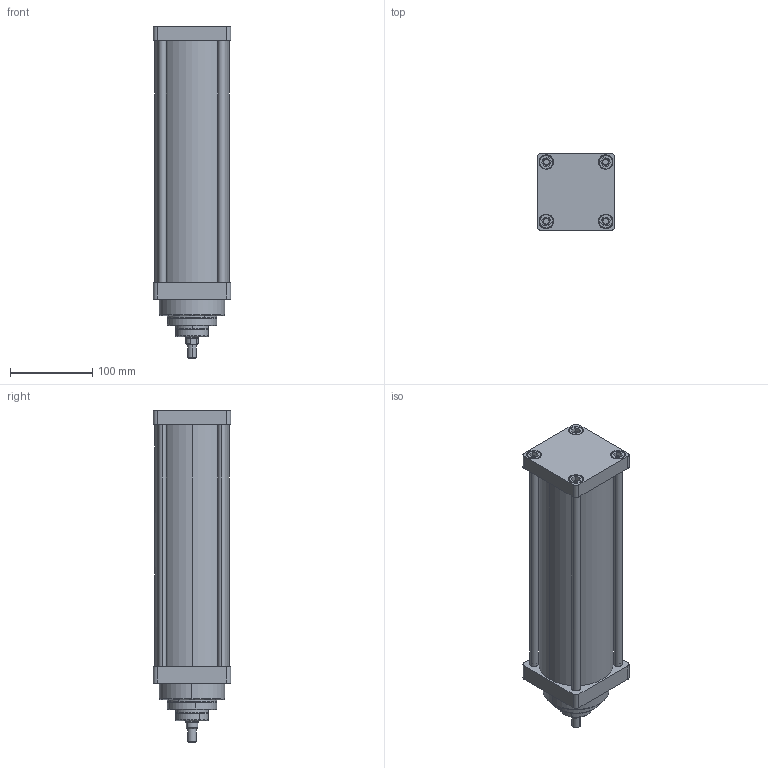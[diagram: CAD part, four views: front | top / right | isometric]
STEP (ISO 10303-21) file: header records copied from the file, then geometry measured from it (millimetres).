
FILE_DESCRIPTION (( 'STEP AP214' ), '1' );
FILE_NAME ('TLSK_3K_80_700.STEP', '2023-01-07T17:18:55', ( '' ), ( '' ), 'SwSTEP 2.0', 'SolidWorks 2021', '' );
FILE_SCHEMA (( 'AUTOMOTIVE_DESIGN' ));
Length unit declared in the file: millimetre
Products named in the file (19): 80_90_alm_boru_WEB; 63_ARKA_KAPAK_OZEL; 16_18_PAP_16_18_10_PAP; K103-060; pap_60_65_12; K52-16X20_5X3_6-4_8; KO-54X3; K103-040; 63_400_26boru_kapak_otto; 16_K_M尳_WEB; 40_35_boru_WEB; 56_60_alm.boru_WEB; CIVATA_WEB; 63_ON_KAPAK_OZEL; TLSK_3K_80_700; Kastas Seals-KO-32X2_5; 63_1600_50boru_kapak_teleskopik; M8_SAPLAMA_100_WEB; pap_40_44_12
Assembly tree (28 placements, depth 2):
  TLSK_3K_80_700
    40_35_boru_WEB
    16_K_M尳_WEB
    63_400_26boru_kapak_otto
    Kastas Seals-KO-32X2_5
    63_ON_KAPAK_OZEL
    63_ARKA_KAPAK_OZEL
    56_60_alm.boru_WEB
    63_1600_50boru_kapak_teleskopik
    K103-060
    pap_40_44_12
    pap_60_65_12
    K103-040
    KO-54X3
    80_90_alm_boru_WEB
    16_18_PAP_16_18_10_PAP
    K52-16X20_5X3_6-4_8
    M8_SAPLAMA_100_WEB  x4
    CIVATA_WEB  x8
Bounding box: 94 x 94 x 403 mm (x, y, z)
Volume: 907887.1 mm3; surface area: 395231.8 mm2
Topology: 28 solids, 28 shells, 1115 faces, 2663 edges, 1698 vertices
Faces by surface type: cylinder 383, plane 335, bspline 208, cone 167, torus 22
Entity records: 57597 total; most frequent: CARTESIAN_POINT 37004, ORIENTED_EDGE 4350, DIRECTION 3436, EDGE_CURVE 2175, VERTEX_POINT 1396, AXIS2_PLACEMENT_3D 1275, EDGE_LOOP 1015, LINE 886
